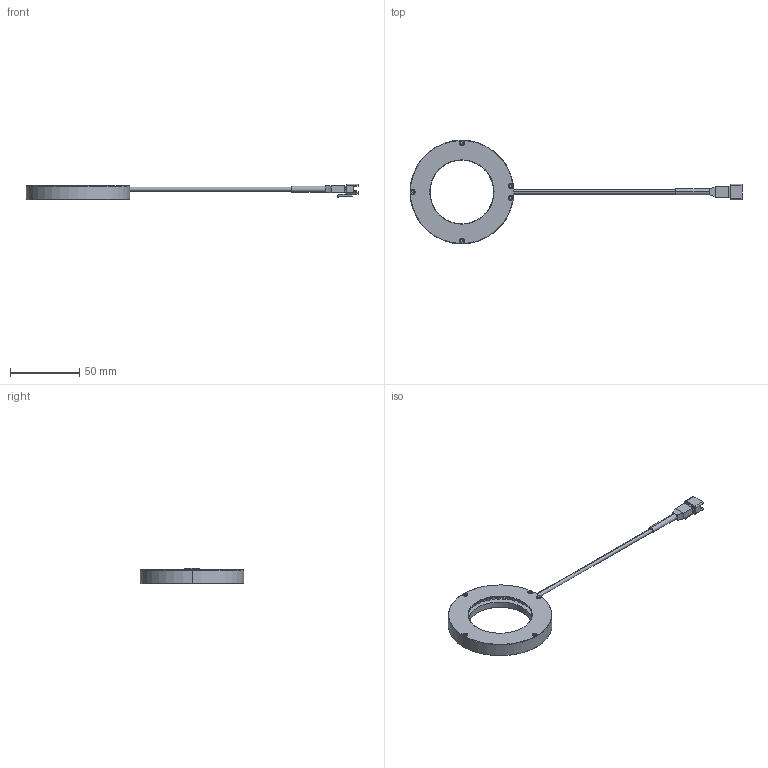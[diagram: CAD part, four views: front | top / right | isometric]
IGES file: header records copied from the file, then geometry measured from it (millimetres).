
Start section: 3D InterOp IGES (v. 2019 1.0.2), Spatial Corp. Copyright (c) 1999-2017.
Global section: file name: VHR-4675_Drawing_L1114A-A00100.iges; native system: Spatial Corp.; preprocessor: 3D InterOp ACIS/IGES; author: Noname; organization: Noname; date: 20230901.140900; units: millimetre
Bounding box: 240 x 75 x 11.1 mm (x, y, z)
Surface area: 17807.9 mm2 (no closed solid volume)
Topology: 0 solids, 0 shells, 1114 faces, 5488 edges, 5385 vertices
Faces by surface type: extrusion 781, revolution 329, bspline 4
